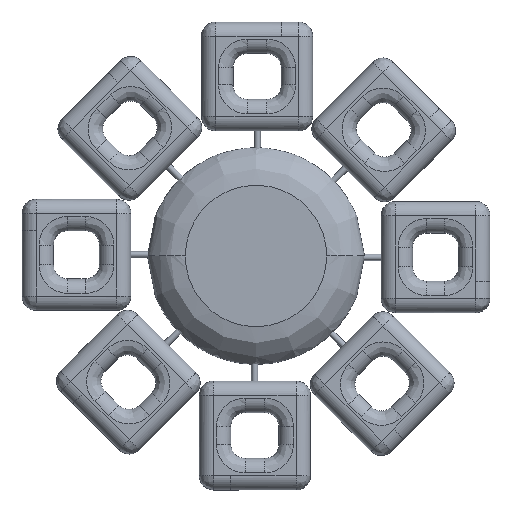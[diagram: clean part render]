
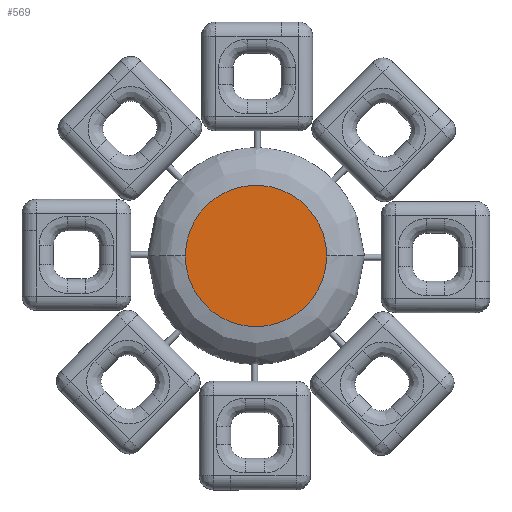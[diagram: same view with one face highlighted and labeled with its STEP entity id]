
A CAD part, top view. The second image highlights one B-rep face of the part: STEP entity #569.
In plain terms, the highlighted planar face has unit normal (0, 0, 1).
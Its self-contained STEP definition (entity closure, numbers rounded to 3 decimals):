
#569=ADVANCED_FACE('',(#1077),#6173,.T.);
#1077=FACE_OUTER_BOUND('',#1585,.T.);
#1585=EDGE_LOOP('',(#2109,#2110));
#2109=ORIENTED_EDGE('',*,*,#4157,.F.);
#2110=ORIENTED_EDGE('',*,*,#4154,.F.);
#4154=EDGE_CURVE('',#5191,#5194,#6367,.T.);
#4157=EDGE_CURVE('',#5194,#5191,#6370,.T.);
#5191=VERTEX_POINT('',#7322);
#5194=VERTEX_POINT('',#7325);
#6173=PLANE('',#6992);
#6367=(
BOUNDED_CURVE()
B_SPLINE_CURVE(2,(#7333,#7334,#7335,#7336,#7337),.UNSPECIFIED.,.F.,.F.)
B_SPLINE_CURVE_WITH_KNOTS((3,2,3),(-43.65,-32.737,
-21.825),.UNSPECIFIED.)
CURVE()
GEOMETRIC_REPRESENTATION_ITEM()
RATIONAL_B_SPLINE_CURVE((1.,0.707,1.,0.707,1.))
REPRESENTATION_ITEM('')
);
#6370=(
BOUNDED_CURVE()
B_SPLINE_CURVE(2,(#7350,#7351,#7352,#7353,#7354),.UNSPECIFIED.,.F.,.F.)
B_SPLINE_CURVE_WITH_KNOTS((3,2,3),(-21.825,-10.912,
0.),.UNSPECIFIED.)
CURVE()
GEOMETRIC_REPRESENTATION_ITEM()
RATIONAL_B_SPLINE_CURVE((1.,0.707,1.,0.707,1.))
REPRESENTATION_ITEM('')
);
#6992=AXIS2_PLACEMENT_3D('',#7250,#7111,$);
#7111=DIRECTION('',(0.,0.,1.));
#7250=CARTESIAN_POINT('',(37.718,58.315,7.559));
#7322=CARTESIAN_POINT('',(61.916,46.097,7.559));
#7325=CARTESIAN_POINT('',(37.958,46.097,7.559));
#7333=CARTESIAN_POINT('',(61.916,46.097,7.559));
#7334=CARTESIAN_POINT('',(61.916,34.118,7.559));
#7335=CARTESIAN_POINT('',(49.937,34.118,7.559));
#7336=CARTESIAN_POINT('',(37.958,34.118,7.559));
#7337=CARTESIAN_POINT('',(37.958,46.097,7.559));
#7350=CARTESIAN_POINT('',(37.958,46.097,7.559));
#7351=CARTESIAN_POINT('',(37.958,58.075,7.559));
#7352=CARTESIAN_POINT('',(49.937,58.075,7.559));
#7353=CARTESIAN_POINT('',(61.916,58.075,7.559));
#7354=CARTESIAN_POINT('',(61.916,46.097,7.559));
